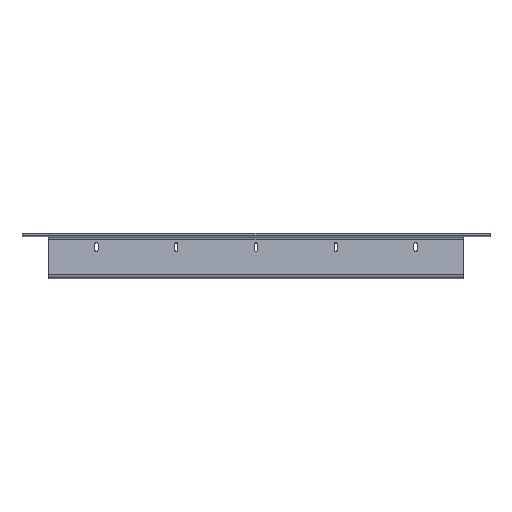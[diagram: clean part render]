
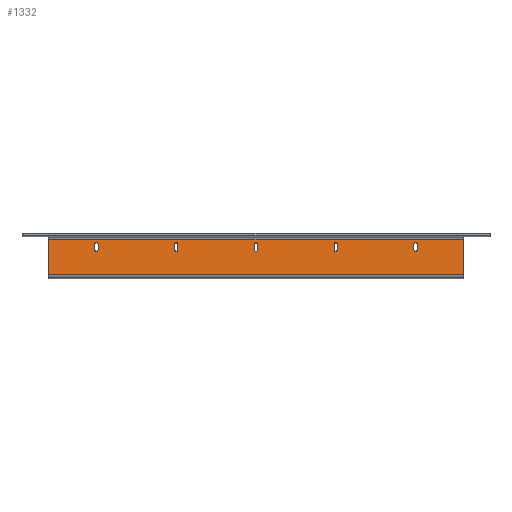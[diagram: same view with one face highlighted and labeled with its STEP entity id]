
A CAD part, front view. The second image highlights one B-rep face of the part: STEP entity #1332.
In plain terms, the highlighted planar face has unit normal (0, -0.996, 0.087).
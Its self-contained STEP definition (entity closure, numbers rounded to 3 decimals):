
#25=FACE_BOUND('',#223,.T.);
#26=FACE_BOUND('',#224,.T.);
#27=FACE_BOUND('',#225,.T.);
#28=FACE_BOUND('',#226,.T.);
#29=FACE_BOUND('',#227,.T.);
#72=PLANE('',#1476);
#142=FACE_OUTER_BOUND('',#222,.T.);
#222=EDGE_LOOP('',(#1181,#1182,#1183,#1184));
#223=EDGE_LOOP('',(#1185,#1186,#1187,#1188));
#224=EDGE_LOOP('',(#1189,#1190,#1191,#1192));
#225=EDGE_LOOP('',(#1193,#1194,#1195,#1196));
#226=EDGE_LOOP('',(#1197,#1198,#1199,#1200));
#227=EDGE_LOOP('',(#1201,#1202,#1203,#1204));
#279=LINE('',#2007,#407);
#284=LINE('',#2021,#412);
#287=LINE('',#2031,#415);
#292=LINE('',#2045,#420);
#295=LINE('',#2055,#423);
#300=LINE('',#2069,#428);
#303=LINE('',#2079,#431);
#308=LINE('',#2093,#436);
#311=LINE('',#2103,#439);
#316=LINE('',#2117,#444);
#352=LINE('',#2219,#480);
#355=LINE('',#2225,#483);
#358=LINE('',#2232,#486);
#359=LINE('',#2236,#487);
#407=VECTOR('',#1603,10.);
#412=VECTOR('',#1616,10.);
#415=VECTOR('',#1627,10.);
#420=VECTOR('',#1640,10.);
#423=VECTOR('',#1651,10.);
#428=VECTOR('',#1664,10.);
#431=VECTOR('',#1675,10.);
#436=VECTOR('',#1688,10.);
#439=VECTOR('',#1699,10.);
#444=VECTOR('',#1712,10.);
#480=VECTOR('',#1830,10.);
#483=VECTOR('',#1835,10.);
#486=VECTOR('',#1842,10.);
#487=VECTOR('',#1849,5.285);
#513=CIRCLE('',#1389,3.);
#515=CIRCLE('',#1393,3.);
#517=CIRCLE('',#1397,3.);
#519=CIRCLE('',#1401,3.);
#521=CIRCLE('',#1405,3.);
#523=CIRCLE('',#1409,3.);
#525=CIRCLE('',#1413,3.);
#527=CIRCLE('',#1417,3.);
#529=CIRCLE('',#1421,3.);
#531=CIRCLE('',#1425,3.);
#603=VERTEX_POINT('',#2005);
#604=VERTEX_POINT('',#2006);
#607=VERTEX_POINT('',#2014);
#609=VERTEX_POINT('',#2020);
#611=VERTEX_POINT('',#2029);
#612=VERTEX_POINT('',#2030);
#615=VERTEX_POINT('',#2038);
#617=VERTEX_POINT('',#2044);
#619=VERTEX_POINT('',#2053);
#620=VERTEX_POINT('',#2054);
#623=VERTEX_POINT('',#2062);
#625=VERTEX_POINT('',#2068);
#627=VERTEX_POINT('',#2077);
#628=VERTEX_POINT('',#2078);
#631=VERTEX_POINT('',#2086);
#633=VERTEX_POINT('',#2092);
#635=VERTEX_POINT('',#2101);
#636=VERTEX_POINT('',#2102);
#639=VERTEX_POINT('',#2110);
#641=VERTEX_POINT('',#2116);
#665=VERTEX_POINT('',#2211);
#666=VERTEX_POINT('',#2215);
#668=VERTEX_POINT('',#2223);
#670=VERTEX_POINT('',#2231);
#737=EDGE_CURVE('',#603,#604,#279,.T.);
#741=EDGE_CURVE('',#604,#607,#513,.T.);
#744=EDGE_CURVE('',#607,#609,#284,.T.);
#747=EDGE_CURVE('',#609,#603,#515,.T.);
#749=EDGE_CURVE('',#611,#612,#287,.T.);
#753=EDGE_CURVE('',#612,#615,#517,.T.);
#756=EDGE_CURVE('',#615,#617,#292,.T.);
#759=EDGE_CURVE('',#617,#611,#519,.T.);
#761=EDGE_CURVE('',#619,#620,#295,.T.);
#765=EDGE_CURVE('',#620,#623,#521,.T.);
#768=EDGE_CURVE('',#623,#625,#300,.T.);
#771=EDGE_CURVE('',#625,#619,#523,.T.);
#773=EDGE_CURVE('',#627,#628,#303,.T.);
#777=EDGE_CURVE('',#628,#631,#525,.T.);
#780=EDGE_CURVE('',#631,#633,#308,.T.);
#783=EDGE_CURVE('',#633,#627,#527,.T.);
#785=EDGE_CURVE('',#635,#636,#311,.T.);
#789=EDGE_CURVE('',#636,#639,#529,.T.);
#792=EDGE_CURVE('',#639,#641,#316,.T.);
#795=EDGE_CURVE('',#641,#635,#531,.T.);
#844=EDGE_CURVE('',#665,#666,#352,.T.);
#847=EDGE_CURVE('',#666,#668,#355,.T.);
#850=EDGE_CURVE('',#668,#670,#358,.T.);
#853=EDGE_CURVE('',#670,#665,#359,.T.);
#1181=ORIENTED_EDGE('',*,*,#844,.T.);
#1182=ORIENTED_EDGE('',*,*,#847,.T.);
#1183=ORIENTED_EDGE('',*,*,#850,.T.);
#1184=ORIENTED_EDGE('',*,*,#853,.T.);
#1185=ORIENTED_EDGE('',*,*,#792,.T.);
#1186=ORIENTED_EDGE('',*,*,#795,.T.);
#1187=ORIENTED_EDGE('',*,*,#785,.T.);
#1188=ORIENTED_EDGE('',*,*,#789,.T.);
#1189=ORIENTED_EDGE('',*,*,#780,.T.);
#1190=ORIENTED_EDGE('',*,*,#783,.T.);
#1191=ORIENTED_EDGE('',*,*,#773,.T.);
#1192=ORIENTED_EDGE('',*,*,#777,.T.);
#1193=ORIENTED_EDGE('',*,*,#768,.T.);
#1194=ORIENTED_EDGE('',*,*,#771,.T.);
#1195=ORIENTED_EDGE('',*,*,#761,.T.);
#1196=ORIENTED_EDGE('',*,*,#765,.T.);
#1197=ORIENTED_EDGE('',*,*,#756,.T.);
#1198=ORIENTED_EDGE('',*,*,#759,.T.);
#1199=ORIENTED_EDGE('',*,*,#749,.T.);
#1200=ORIENTED_EDGE('',*,*,#753,.T.);
#1201=ORIENTED_EDGE('',*,*,#744,.T.);
#1202=ORIENTED_EDGE('',*,*,#747,.T.);
#1203=ORIENTED_EDGE('',*,*,#737,.T.);
#1204=ORIENTED_EDGE('',*,*,#741,.T.);
#1332=ADVANCED_FACE('',(#142,#25,#26,#27,#28,#29),#72,.T.);
#1389=AXIS2_PLACEMENT_3D('',#2015,#1609,#1610);
#1393=AXIS2_PLACEMENT_3D('',#2026,#1621,#1622);
#1397=AXIS2_PLACEMENT_3D('',#2039,#1633,#1634);
#1401=AXIS2_PLACEMENT_3D('',#2050,#1645,#1646);
#1405=AXIS2_PLACEMENT_3D('',#2063,#1657,#1658);
#1409=AXIS2_PLACEMENT_3D('',#2074,#1669,#1670);
#1413=AXIS2_PLACEMENT_3D('',#2087,#1681,#1682);
#1417=AXIS2_PLACEMENT_3D('',#2098,#1693,#1694);
#1421=AXIS2_PLACEMENT_3D('',#2111,#1705,#1706);
#1425=AXIS2_PLACEMENT_3D('',#2122,#1717,#1718);
#1476=AXIS2_PLACEMENT_3D('',#2244,#1862,#1863);
#1603=DIRECTION('',(0.,0.087,0.996));
#1609=DIRECTION('center_axis',(0.,0.996,-0.087));
#1610=DIRECTION('ref_axis',(-1.,0.,0.));
#1616=DIRECTION('',(0.,-0.087,-0.996));
#1621=DIRECTION('center_axis',(0.,0.996,-0.087));
#1622=DIRECTION('ref_axis',(1.,0.,0.));
#1627=DIRECTION('',(0.,0.087,0.996));
#1633=DIRECTION('center_axis',(0.,0.996,-0.087));
#1634=DIRECTION('ref_axis',(-1.,0.,0.));
#1640=DIRECTION('',(0.,-0.087,-0.996));
#1645=DIRECTION('center_axis',(0.,0.996,-0.087));
#1646=DIRECTION('ref_axis',(1.,0.,0.));
#1651=DIRECTION('',(0.,0.087,0.996));
#1657=DIRECTION('center_axis',(0.,0.996,-0.087));
#1658=DIRECTION('ref_axis',(-1.,0.,0.));
#1664=DIRECTION('',(0.,-0.087,-0.996));
#1669=DIRECTION('center_axis',(0.,0.996,-0.087));
#1670=DIRECTION('ref_axis',(1.,0.,0.));
#1675=DIRECTION('',(0.,0.087,0.996));
#1681=DIRECTION('center_axis',(0.,0.996,-0.087));
#1682=DIRECTION('ref_axis',(-1.,0.,0.));
#1688=DIRECTION('',(0.,-0.087,-0.996));
#1693=DIRECTION('center_axis',(0.,0.996,-0.087));
#1694=DIRECTION('ref_axis',(1.,0.,0.));
#1699=DIRECTION('',(0.,0.087,0.996));
#1705=DIRECTION('center_axis',(0.,0.996,-0.087));
#1706=DIRECTION('ref_axis',(-1.,0.,0.));
#1712=DIRECTION('',(0.,-0.087,-0.996));
#1717=DIRECTION('center_axis',(0.,0.996,-0.087));
#1718=DIRECTION('ref_axis',(1.,0.,0.));
#1830=DIRECTION('',(-1.,0.,0.));
#1835=DIRECTION('',(0.,-0.087,-0.996));
#1842=DIRECTION('',(1.,0.,0.));
#1849=DIRECTION('',(0.,0.087,0.996));
#1862=DIRECTION('center_axis',(0.,-0.996,0.087));
#1863=DIRECTION('ref_axis',(-1.,0.,0.));
#2005=CARTESIAN_POINT('',(387.,4.764,54.457));
#2006=CARTESIAN_POINT('',(387.,5.636,64.419));
#2007=CARTESIAN_POINT('',(387.,4.588,52.445));
#2014=CARTESIAN_POINT('',(393.,5.636,64.419));
#2015=CARTESIAN_POINT('Origin',(390.,5.636,64.419));
#2020=CARTESIAN_POINT('',(393.,4.764,54.457));
#2021=CARTESIAN_POINT('',(393.,4.153,47.464));
#2026=CARTESIAN_POINT('Origin',(390.,4.764,54.457));
#2029=CARTESIAN_POINT('',(237.,4.764,54.457));
#2030=CARTESIAN_POINT('',(237.,5.636,64.419));
#2031=CARTESIAN_POINT('',(237.,4.588,52.445));
#2038=CARTESIAN_POINT('',(243.,5.636,64.419));
#2039=CARTESIAN_POINT('Origin',(240.,5.636,64.419));
#2044=CARTESIAN_POINT('',(243.,4.764,54.457));
#2045=CARTESIAN_POINT('',(243.,4.153,47.464));
#2050=CARTESIAN_POINT('Origin',(240.,4.764,54.457));
#2053=CARTESIAN_POINT('',(537.,4.764,54.457));
#2054=CARTESIAN_POINT('',(537.,5.636,64.419));
#2055=CARTESIAN_POINT('',(537.,4.588,52.445));
#2062=CARTESIAN_POINT('',(543.,5.636,64.419));
#2063=CARTESIAN_POINT('Origin',(540.,5.636,64.419));
#2068=CARTESIAN_POINT('',(543.,4.764,54.457));
#2069=CARTESIAN_POINT('',(543.,4.153,47.464));
#2074=CARTESIAN_POINT('Origin',(540.,4.764,54.457));
#2077=CARTESIAN_POINT('',(87.,4.764,54.457));
#2078=CARTESIAN_POINT('',(87.,5.636,64.419));
#2079=CARTESIAN_POINT('',(87.,4.588,52.445));
#2086=CARTESIAN_POINT('',(93.,5.636,64.419));
#2087=CARTESIAN_POINT('Origin',(90.,5.636,64.419));
#2092=CARTESIAN_POINT('',(93.,4.764,54.457));
#2093=CARTESIAN_POINT('',(93.,4.153,47.464));
#2098=CARTESIAN_POINT('Origin',(90.,4.764,54.457));
#2101=CARTESIAN_POINT('',(687.,4.764,54.457));
#2102=CARTESIAN_POINT('',(687.,5.636,64.419));
#2103=CARTESIAN_POINT('',(687.,4.588,52.445));
#2110=CARTESIAN_POINT('',(693.,5.636,64.419));
#2111=CARTESIAN_POINT('Origin',(690.,5.636,64.419));
#2116=CARTESIAN_POINT('',(693.,4.764,54.457));
#2117=CARTESIAN_POINT('',(693.,4.153,47.464));
#2122=CARTESIAN_POINT('Origin',(690.,4.764,54.457));
#2211=CARTESIAN_POINT('',(780.,6.507,74.381));
#2215=CARTESIAN_POINT('',(0.,6.507,74.381));
#2219=CARTESIAN_POINT('',(585.,6.507,74.381));
#2223=CARTESIAN_POINT('',(0.,0.698,7.98));
#2225=CARTESIAN_POINT('',(0.,0.698,7.98));
#2231=CARTESIAN_POINT('',(780.,0.698,7.98));
#2232=CARTESIAN_POINT('',(390.,0.698,7.98));
#2236=CARTESIAN_POINT('',(780.,-0.749,-8.56));
#2244=CARTESIAN_POINT('Origin',(390.,3.541,40.472));
